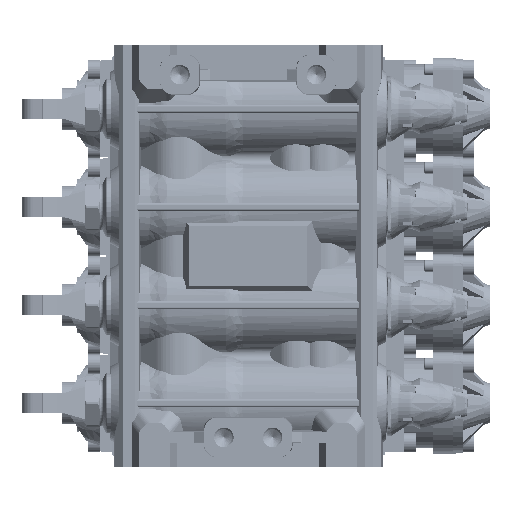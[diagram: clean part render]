
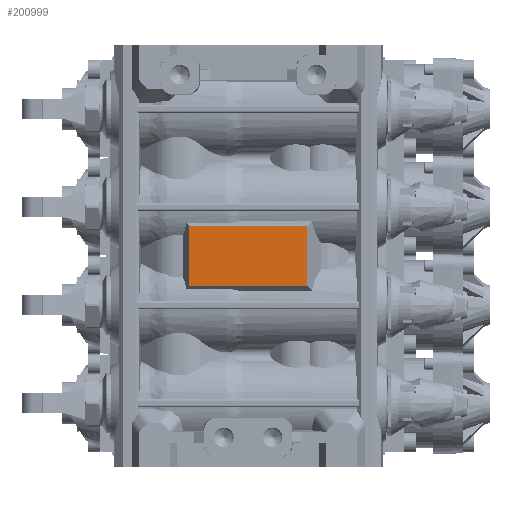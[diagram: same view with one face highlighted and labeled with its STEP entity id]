
A CAD part, front view. The second image highlights one B-rep face of the part: STEP entity #200999.
In plain terms, the highlighted planar face has unit normal (0, -1, 0).
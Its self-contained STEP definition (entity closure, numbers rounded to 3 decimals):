
#13678 = EDGE_LOOP ( 'NONE', ( #102469, #141788, #244339, #15851 ) ) ;
#15851 = ORIENTED_EDGE ( 'NONE', *, *, #247070, .T. ) ;
#38784 = CARTESIAN_POINT ( 'NONE',  ( -29.674, -43., 14.837 ) ) ;
#49691 = CARTESIAN_POINT ( 'NONE',  ( 30.251, -43., -15.414 ) ) ;
#51070 = CARTESIAN_POINT ( 'NONE',  ( -30.251, -43., -15.414 ) ) ;
#59426 = CARTESIAN_POINT ( 'NONE',  ( -29.674, -43., -15.414 ) ) ;
#61285 = DIRECTION ( 'NONE',  ( 0., 0., -1. ) ) ;
#64754 = CARTESIAN_POINT ( 'NONE',  ( 30.251, -43., 14.837 ) ) ;
#67442 = DIRECTION ( 'NONE',  ( -1., 0., 0. ) ) ;
#75280 = VERTEX_POINT ( 'NONE', #132454 ) ;
#81961 = PLANE ( 'NONE',  #100283 ) ;
#93705 = DIRECTION ( 'NONE',  ( 0., 0., -1. ) ) ;
#100283 = AXIS2_PLACEMENT_3D ( 'NONE', #38784, #255717, #61285 ) ;
#102469 = ORIENTED_EDGE ( 'NONE', *, *, #265543, .T. ) ;
#103307 = VERTEX_POINT ( 'NONE', #51070 ) ;
#110636 = DIRECTION ( 'NONE',  ( 0., 0., 1. ) ) ;
#115515 = VECTOR ( 'NONE', #150348, 1000. ) ;
#115985 = VERTEX_POINT ( 'NONE', #125781 ) ;
#125781 = CARTESIAN_POINT ( 'NONE',  ( 30.251, -43., 15.414 ) ) ;
#132454 = CARTESIAN_POINT ( 'NONE',  ( -30.251, -43., 15.414 ) ) ;
#141322 = VECTOR ( 'NONE', #67442, 1000. ) ;
#141788 = ORIENTED_EDGE ( 'NONE', *, *, #188846, .T. ) ;
#142619 = VECTOR ( 'NONE', #93705, 1000. ) ;
#150348 = DIRECTION ( 'NONE',  ( 1., 0., 0. ) ) ;
#178377 = LINE ( 'NONE', #64754, #245506 ) ;
#188846 = EDGE_CURVE ( 'NONE', #230003, #115985, #178377, .T. ) ;
#196549 = LINE ( 'NONE', #245815, #142619 ) ;
#200999 = ADVANCED_FACE ( 'NONE', ( #273886 ), #81961, .T. ) ;
#230003 = VERTEX_POINT ( 'NONE', #49691 ) ;
#244339 = ORIENTED_EDGE ( 'NONE', *, *, #273481, .T. ) ;
#245506 = VECTOR ( 'NONE', #110636, 1000. ) ;
#245815 = CARTESIAN_POINT ( 'NONE',  ( -30.251, -43., 14.837 ) ) ;
#247070 = EDGE_CURVE ( 'NONE', #75280, #103307, #196549, .T. ) ;
#250143 = LINE ( 'NONE', #59426, #115515 ) ;
#255717 = DIRECTION ( 'NONE',  ( 0., -1., 0. ) ) ;
#257316 = CARTESIAN_POINT ( 'NONE',  ( -29.674, -43., 15.414 ) ) ;
#265543 = EDGE_CURVE ( 'NONE', #103307, #230003, #250143, .T. ) ;
#273481 = EDGE_CURVE ( 'NONE', #115985, #75280, #275909, .T. ) ;
#273886 = FACE_OUTER_BOUND ( 'NONE', #13678, .T. ) ;
#275909 = LINE ( 'NONE', #257316, #141322 ) ;
